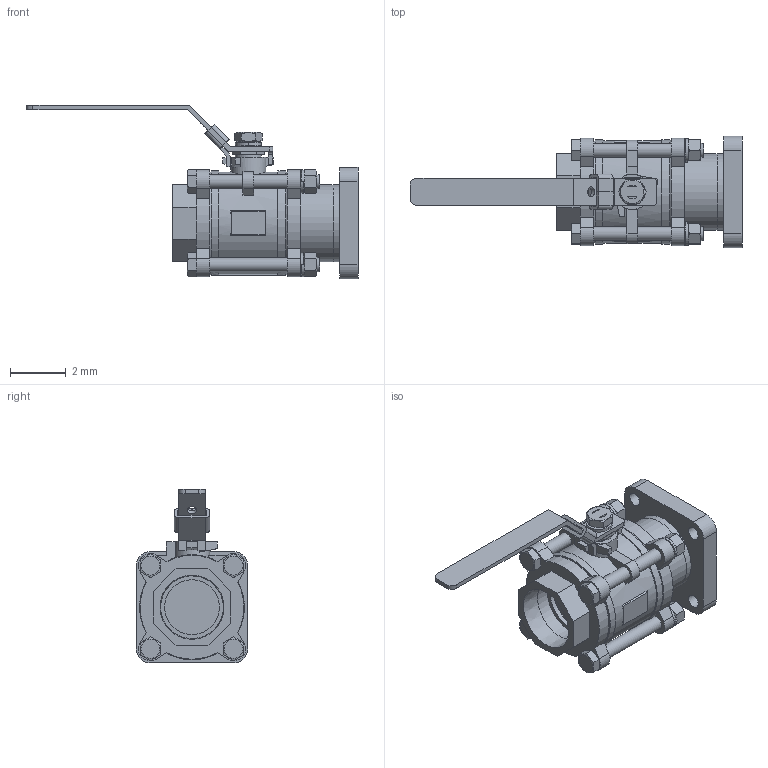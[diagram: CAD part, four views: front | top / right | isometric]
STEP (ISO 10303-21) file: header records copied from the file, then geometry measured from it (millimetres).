
FILE_DESCRIPTION(('Open CASCADE Model'),'2;1');
FILE_NAME('Open CASCADE Shape Model','2022-10-13T11:08:02',('Author'),( 'Open CASCADE'),'Open CASCADE STEP processor 7.3','Open CASCADE 7.3' ,'Unknown');
FILE_SCHEMA(('AUTOMOTIVE_DESIGN { 1 0 10303 214 1 1 1 1 }'));
Length unit declared in the file: millimetre
Products named in the file (411): Open CASCADE STEP translator 7.3 1; Open CASCADE STEP translator 7.3 1.1; Open CASCADE STEP translator 7.3 1.2; Open CASCADE STEP translator 7.3 1.3; Open CASCADE STEP translator 7.3 1.4; Open CASCADE STEP translator 7.3 1.5; Open CASCADE STEP translator 7.3 1.6; Open CASCADE STEP translator 7.3 1.7; Open CASCADE STEP translator 7.3 1.8; Open CASCADE STEP translator 7.3 1.9; Open CASCADE STEP translator 7.3 1.10; Open CASCADE STEP translator 7.3 1.11; Open CASCADE STEP translator 7.3 1.12; Open CASCADE STEP translator 7.3 1.13; Open CASCADE STEP translator 7.3 1.14; Open CASCADE STEP translator 7.3 1.15; Open CASCADE STEP translator 7.3 1.16; Open CASCADE STEP translator 7.3 1.17; Open CASCADE STEP translator 7.3 1.18; Open CASCADE STEP translator 7.3 1.19; Open CASCADE STEP translator 7.3 1.20; Open CASCADE STEP translator 7.3 1.21; Open CASCADE STEP translator 7.3 1.22; Open CASCADE STEP translator 7.3 1.23; Open CASCADE STEP translator 7.3 1.24; Open CASCADE STEP translator 7.3 1.25; Open CASCADE STEP translator 7.3 1.26; Open CASCADE STEP translator 7.3 1.27; Open CASCADE STEP translator 7.3 1.28; Open CASCADE STEP translator 7.3 1.29; Open CASCADE STEP translator 7.3 1.30; Open CASCADE STEP translator 7.3 1.31; Open CASCADE STEP translator 7.3 1.32; Open CASCADE STEP translator 7.3 1.33; Open CASCADE STEP translator 7.3 1.34; Open CASCADE STEP translator 7.3 1.35; Open CASCADE STEP translator 7.3 1.36; Open CASCADE STEP translator 7.3 1.37; Open CASCADE STEP translator 7.3 1.38; Open CASCADE STEP translator 7.3 1.39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
Assembly tree (410 placements, depth 2):
  Open CASCADE STEP translator 7.3 1
    Open CASCADE STEP translator 7.3 1.1
    Open CASCADE STEP translator 7.3 1.2
    Open CASCADE STEP translator 7.3 1.3
    Open CASCADE STEP translator 7.3 1.4
    Open CASCADE STEP translator 7.3 1.5
    Open CASCADE STEP translator 7.3 1.6
    Open CASCADE STEP translator 7.3 1.7
    Open CASCADE STEP translator 7.3 1.8
    Open CASCADE STEP translator 7.3 1.9
    Open CASCADE STEP translator 7.3 1.10
    Open CASCADE STEP translator 7.3 1.11
    Open CASCADE STEP translator 7.3 1.12
    Open CASCADE STEP translator 7.3 1.13
    Open CASCADE STEP translator 7.3 1.14
    Open CASCADE STEP translator 7.3 1.15
    Open CASCADE STEP translator 7.3 1.16
    Open CASCADE STEP translator 7.3 1.17
    Open CASCADE STEP translator 7.3 1.18
    Open CASCADE STEP translator 7.3 1.19
    Open CASCADE STEP translator 7.3 1.20
    Open CASCADE STEP translator 7.3 1.21
    Open CASCADE STEP translator 7.3 1.22
    Open CASCADE STEP translator 7.3 1.23
    Open CASCADE STEP translator 7.3 1.24
    Open CASCADE STEP translator 7.3 1.25
    Open CASCADE STEP translator 7.3 1.26
    Open CASCADE STEP translator 7.3 1.27
    Open CASCADE STEP translator 7.3 1.28
    Open CASCADE STEP translator 7.3 1.29
    Open CASCADE STEP translator 7.3 1.30
    Open CASCADE STEP translator 7.3 1.31
    Open CASCADE STEP translator 7.3 1.32
    Open CASCADE STEP translator 7.3 1.33
    Open CASCADE STEP translator 7.3 1.34
    Open CASCADE STEP translator 7.3 1.35
    Open CASCADE STEP translator 7.3 1.36
    Open CASCADE STEP translator 7.3 1.37
    Open CASCADE STEP translator 7.3 1.38
    Open CASCADE STEP translator 7.3 1.39
    Open CASCADE STEP translator 7.3 1.40
    Open CASCADE STEP translator 7.3 1.41
    Open CASCADE STEP translator 7.3 1.42
    Open CASCADE STEP translator 7.3 1.43
    Open CASCADE STEP translator 7.3 1.44
    Open CASCADE STEP translator 7.3 1.45
    Open CASCADE STEP translator 7.3 1.46
    Open CASCADE STEP translator 7.3 1.47
    Open CASCADE STEP translator 7.3 1.48
    Open CASCADE STEP translator 7.3 1.49
    Open CASCADE STEP translator 7.3 1.50
    Open CASCADE STEP translator 7.3 1.51
    Open CASCADE STEP translator 7.3 1.52
    Open CASCADE STEP translator 7.3 1.53
    Open CASCADE STEP translator 7.3 1.54
    Open CASCADE STEP translator 7.3 1.55
    Open CASCADE STEP translator 7.3 1.56
    Open CASCADE STEP translator 7.3 1.57
    Open CASCADE STEP translator 7.3 1.58
    Open CASCADE STEP translator 7.3 1.59
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Bounding box: 11.91 x 4 x 6.24 mm (x, y, z)
Surface area: 249.8 mm2 (no closed solid volume)
Topology: 0 solids, 410 shells, 410 faces, 2105 edges, 2059 vertices
Faces by surface type: plane 253, cylinder 96, cone 61
Full cylindrical faces by diameter (mm): 0.353 x1, 0.494 x12, 0.545 x8, 0.669 x1, 0.7 x1, 0.932 x1, 1.265 x1, 1.97 x4, 2.253 x2, 2.76 x2
Entity records: 48771 total; most frequent: CARTESIAN_POINT 13688, DIRECTION 5816, LINE 2800, VECTOR 2800, ORIENTED_EDGE 2151, PCURVE 2151, DEFINITIONAL_REPRESENTATION 2151, EDGE_CURVE 2105
